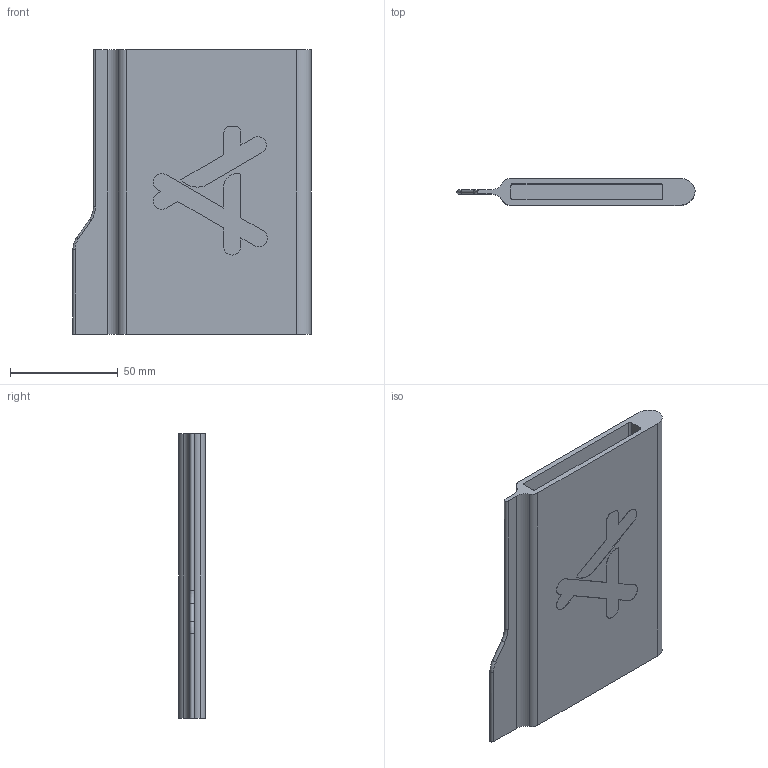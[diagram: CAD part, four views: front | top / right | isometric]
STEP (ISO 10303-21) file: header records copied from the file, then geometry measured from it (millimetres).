
FILE_DESCRIPTION(/* description */ (''),/* implementation_level */ '2;1');
FILE_NAME(/* name */ 'shell app.step',/* time_stamp */ '2025-09-12T21:17:09+02:00',/* author */ (''),/* organization */ (''),/* preprocessor_version */ 'ST-DEVELOPER v20.1',/* originating_system */ 'Autodesk Translation Framework v14.10.0.0',/* authorisation */ '');
FILE_SCHEMA (('AUTOMOTIVE_DESIGN { 1 0 10303 214 3 1 1 }'));
Length unit declared in the file: millimetre
Products named in the file (1): case tipo3
Bounding box: 110.5 x 12.5 x 132 mm (x, y, z)
Volume: 84466.2 mm3; surface area: 50341.1 mm2
Topology: 1 solids, 1 shells, 55 faces, 151 edges, 101 vertices
Faces by surface type: plane 30, cylinder 23, torus 2
Entity records: 1797 total; most frequent: CARTESIAN_POINT 318, DIRECTION 310, ORIENTED_EDGE 302, EDGE_CURVE 151, AXIS2_PLACEMENT_3D 105, VERTEX_POINT 101, LINE 100, VECTOR 100
